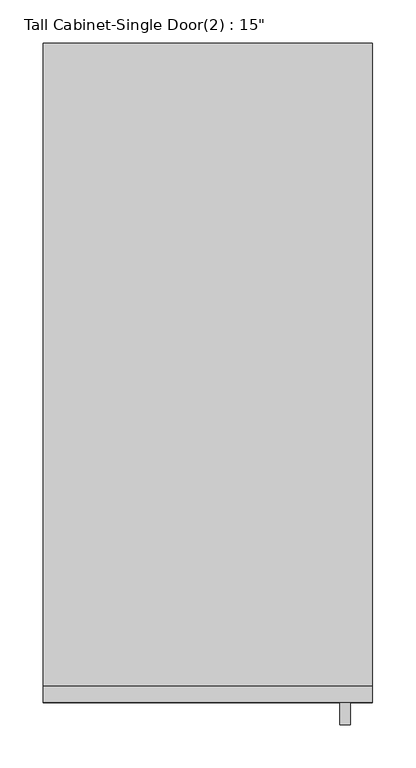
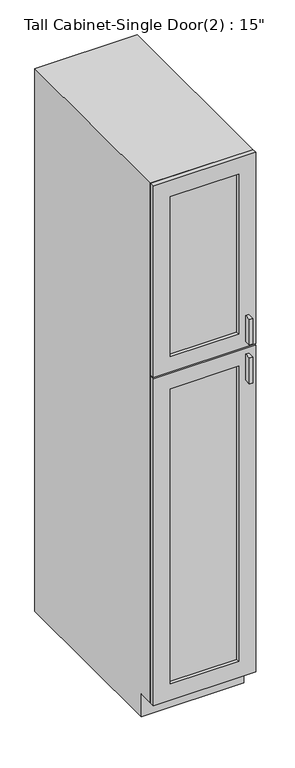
"""IFC4 building model written with IfcOpenShell, lengths in millimetres: furniture geometry."""

from ifc_helpers import new_model, si_unit, frame, origin, place, context, project, spatial, polyline, outline, extrude, faceted_brep, source, transform, mapped, element, save


def furniture_472c0a81(model_context):
    return source(origin(), model_context, "Body", "SolidModel", [
        faceted_brep([(209.2377049, -742.95, 90.4875), (209.2377049, -742.95, 2133.6), (-171.7622951, -742.95, 2133.6), (-171.7622951, -742.95, 90.4875), (190.1877049, -742.95, 2114.55), (190.1877049, -742.95, 109.5375), (-152.7122951, -742.95, 109.5375), (-152.7122951, -742.95, 2114.55), (-171.7622951, 0.0, 2133.6), (209.2377049, 0.0, 2133.6), (209.2377049, 0.0, 0.0), (-171.7622951, 0.0, 0.0), (209.2377049, -685.8, 90.4875), (209.2377049, -685.8, 0.0), (-171.7622951, -685.8, 0.0), (-171.7622951, -685.8, 90.4875), (190.1877049, -19.05, 2114.55), (190.1877049, -19.05, 109.5375), (-152.7122951, -19.05, 109.5375), (-152.7122951, -19.05, 2114.55)], [[[0, 1, 2, 3], [4, 5, 6, 7]], [[8, 9, 10, 11]], [[1, 0, 12, 13, 10, 9]], [[2, 1, 9, 8]], [[3, 2, 8, 11, 14, 15]], [[0, 3, 15, 12]], [[5, 4, 16, 17]], [[6, 5, 17, 18]], [[7, 6, 18, 19]], [[4, 7, 19, 16]], [[10, 13, 14, 11]], [[14, 13, 12, 15]], [[17, 16, 19, 18]]]),
        extrude(outline(polyline([(183.8377049, -787.4), (171.3054733, -787.4), (171.3054733, -762.0), (183.8377049, -762.0), (183.8377049, -787.4)])), frame((0.0, 0.0, 1403.5480367), z_axis=(0.0, 0.0, 1.0), x_axis=(1.0, 0.0, 0.0)), (0.0, 0.0, 1.0), 101.6),
        extrude(outline(polyline([(183.8377049, -787.4), (171.3054733, -787.4), (171.3054733, -762.0), (183.8377049, -762.0), (183.8377049, -787.4)])), frame((0.0, 0.0, 1251.1480367), z_axis=(0.0, 0.0, 1.0), x_axis=(1.0, 0.0, 0.0)), (0.0, 0.0, 1.0), 101.6),
        extrude(outline(polyline([(145.7377049, -749.3), (-108.2622951, -749.3), (-108.2622951, -742.95), (145.7377049, -742.95), (145.7377049, -749.3)])), frame((0.0, 0.0, 1441.6480367), z_axis=(0.0, 0.0, 1.0), x_axis=(1.0, 0.0, 0.0)), (0.0, 0.0, 1.0), 628.4519633),
        extrude(outline(polyline([(145.7377049, -749.3), (-108.2622951, -749.3), (-108.2622951, -742.95), (145.7377049, -742.95), (145.7377049, -749.3)])), frame((0.0, 0.0, 153.9875), z_axis=(0.0, 0.0, 1.0), x_axis=(1.0, 0.0, 0.0)), (0.0, 0.0, 1.0), 1160.6605367),
        extrude(outline(polyline([(2133.6, 209.2377049), (2133.6, -171.7622951), (1381.3230367, -171.7622951), (1381.3230367, 209.2377049), (2133.6, 209.2377049)]), holes=[polyline([(2070.1, 145.7377049), (1441.6480367, 145.7377049), (1441.6480367, -108.2622951), (2070.1, -108.2622951), (2070.1, 145.7377049)])]), frame((0.0, -762.0, 0.0), z_axis=(0.0, 1.0, 0.0), x_axis=(0.0, 0.0, 1.0)), (0.0, 0.0, 1.0), 19.05),
        extrude(outline(polyline([(90.4875, 209.2377049), (1374.9730367, 209.2377049), (1374.9730367, -171.7622951), (90.4875, -171.7622951), (90.4875, 209.2377049)]), holes=[polyline([(1314.6480367, 145.7377049), (153.9875, 145.7377049), (153.9875, -108.2622951), (1314.6480367, -108.2622951), (1314.6480367, 145.7377049)])]), frame((0.0, -762.0, 0.0), z_axis=(0.0, 1.0, 0.0), x_axis=(0.0, 0.0, 1.0)), (0.0, 0.0, 1.0), 19.05),
    ])


if __name__ == "__main__":
    model = new_model("IFC4")
    model_context = context("Model", 3, world=origin())
    ifc_project = project(units=[si_unit("LENGTHUNIT", "METRE", prefix="MILLI")], contexts=[model_context])
    site = spatial("IfcSite", under=ifc_project)
    building = spatial("IfcBuilding", under=site)
    placement = place(None, origin())
    furniture_shape = furniture_472c0a81(model_context)
    element("IfcFurniture", 1, ObjectType="Tall Cabinet-Single Door(2) : 15\"", at=placement, inside=building, context=model_context, shape_type="MappedRepresentation", body=[
        mapped(furniture_shape, transform((0.0, 0.0, 0.0), x_axis=(1.0, 0.0, 0.0), y_axis=(0.0, 1.0, 0.0), z_axis=(0.0, 0.0, 1.0))),
    ])
    save(model, "model.ifc")
